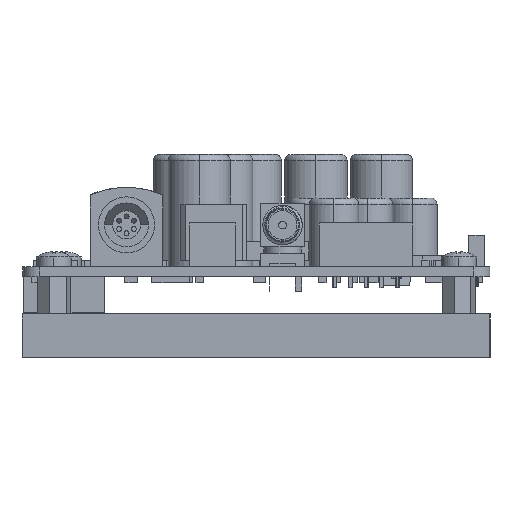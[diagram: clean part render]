
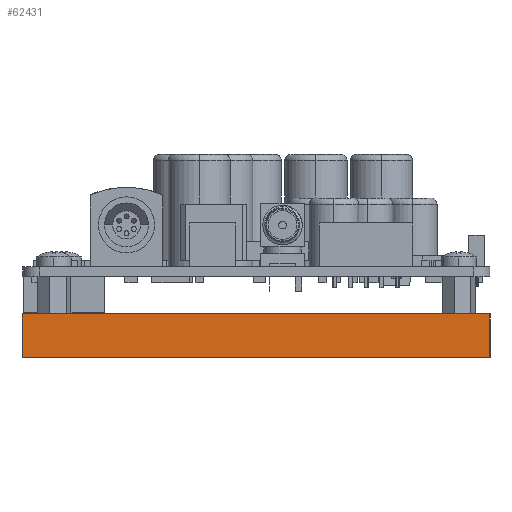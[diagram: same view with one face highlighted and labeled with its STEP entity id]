
A CAD part, left-side view. The second image highlights one B-rep face of the part: STEP entity #62431.
In plain terms, the highlighted planar face has unit normal (-1, 0.001, 0).
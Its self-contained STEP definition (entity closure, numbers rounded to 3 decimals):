
#694 = VECTOR ( 'NONE', #24832, 1000. ) ;
#2047 = VERTEX_POINT ( 'NONE', #45942 ) ;
#2374 = ORIENTED_EDGE ( 'NONE', *, *, #69863, .T. ) ;
#4725 = CARTESIAN_POINT ( 'NONE',  ( -81.334, -23.869, 113.075 ) ) ;
#5256 = VERTEX_POINT ( 'NONE', #45913 ) ;
#5731 = LINE ( 'NONE', #25057, #694 ) ;
#6226 = LINE ( 'NONE', #20123, #39121 ) ;
#7534 = DIRECTION ( 'NONE',  ( 1., -0.001, 0. ) ) ;
#7966 = FACE_OUTER_BOUND ( 'NONE', #58133, .T. ) ;
#8094 = EDGE_CURVE ( 'NONE', #2047, #33852, #69090, .T. ) ;
#10611 = AXIS2_PLACEMENT_3D ( 'NONE', #45738, #7534, #62243 ) ;
#15897 = ORIENTED_EDGE ( 'NONE', *, *, #27579, .F. ) ;
#20123 = CARTESIAN_POINT ( 'NONE',  ( -81.334, -23.869, 120.075 ) ) ;
#20592 = EDGE_CURVE ( 'NONE', #58223, #33852, #21771, .T. ) ;
#21771 = LINE ( 'NONE', #29622, #46224 ) ;
#23807 = PLANE ( 'NONE',  #10611 ) ;
#24832 = DIRECTION ( 'NONE',  ( 0., 0., -1. ) ) ;
#25057 = CARTESIAN_POINT ( 'NONE',  ( -81.261, 51.131, 120.075 ) ) ;
#25607 = DIRECTION ( 'NONE',  ( -0.001, -1., 0. ) ) ;
#27579 = EDGE_CURVE ( 'NONE', #5256, #2047, #6226, .T. ) ;
#29622 = CARTESIAN_POINT ( 'NONE',  ( -81.334, -23.869, 113.075 ) ) ;
#33852 = VERTEX_POINT ( 'NONE', #4725 ) ;
#35959 = DIRECTION ( 'NONE',  ( 0., 0., -1. ) ) ;
#37140 = ORIENTED_EDGE ( 'NONE', *, *, #20592, .T. ) ;
#39121 = VECTOR ( 'NONE', #40914, 1000. ) ;
#39313 = ORIENTED_EDGE ( 'NONE', *, *, #8094, .F. ) ;
#40914 = DIRECTION ( 'NONE',  ( -0.001, -1., 0. ) ) ;
#45738 = CARTESIAN_POINT ( 'NONE',  ( -81.334, -23.869, 120.075 ) ) ;
#45913 = CARTESIAN_POINT ( 'NONE',  ( -81.261, 51.131, 120.075 ) ) ;
#45942 = CARTESIAN_POINT ( 'NONE',  ( -81.334, -23.869, 120.075 ) ) ;
#46224 = VECTOR ( 'NONE', #25607, 1000. ) ;
#58133 = EDGE_LOOP ( 'NONE', ( #37140, #39313, #15897, #2374 ) ) ;
#58223 = VERTEX_POINT ( 'NONE', #69875 ) ;
#62243 = DIRECTION ( 'NONE',  ( 0., 0., -1. ) ) ;
#62431 = ADVANCED_FACE ( 'NONE', ( #7966 ), #23807, .F. ) ;
#63210 = VECTOR ( 'NONE', #35959, 1000. ) ;
#68283 = CARTESIAN_POINT ( 'NONE',  ( -81.334, -23.869, 120.075 ) ) ;
#69090 = LINE ( 'NONE', #68283, #63210 ) ;
#69863 = EDGE_CURVE ( 'NONE', #5256, #58223, #5731, .T. ) ;
#69875 = CARTESIAN_POINT ( 'NONE',  ( -81.261, 51.131, 113.075 ) ) ;
